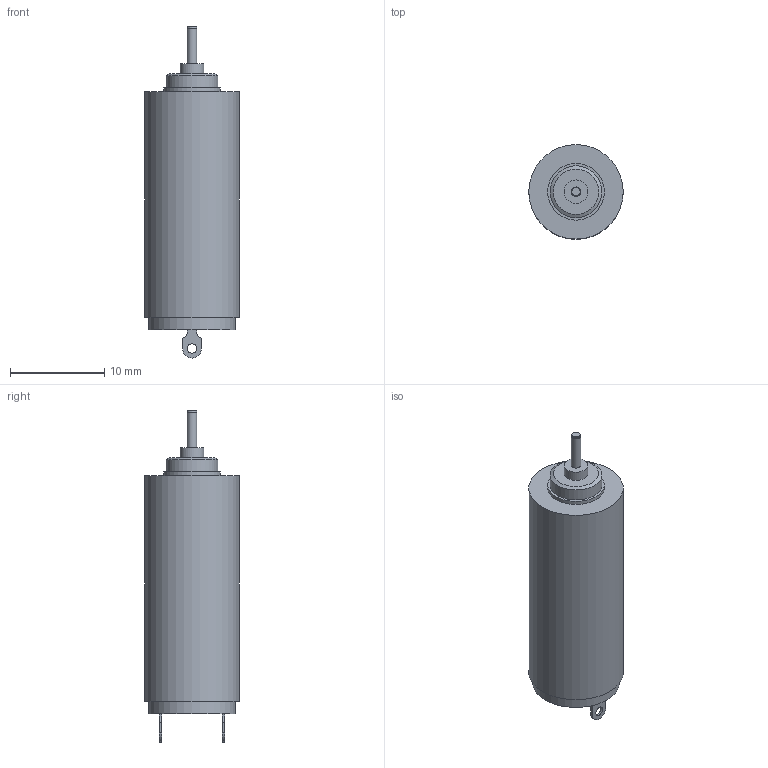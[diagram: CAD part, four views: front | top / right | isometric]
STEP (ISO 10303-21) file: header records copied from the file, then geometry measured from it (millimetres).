
FILE_DESCRIPTION(/* description */ (''),/* implementation_level */ '2;1');
FILE_NAME(/* name */ '1024K_SR.stp',/* time_stamp */ '2015-11-09T11:39:34+01:00',/* author */ (''),/* organization */ (''),/* preprocessor_version */ 'ST-DEVELOPER v15',/* originating_system */ 'SIEMENS PLM Software NX 8.5',/* authorisation */ '');
FILE_SCHEMA (('CONFIG_CONTROL_DESIGN'));
Bounding box: 10 x 10 x 35.15 mm (x, y, z)
Volume: 2020.1 mm3; surface area: 1018.8 mm2
Topology: 1 solids, 1 shells, 47 faces, 105 edges, 69 vertices
Faces by surface type: plane 25, cylinder 19, cone 2, bspline 1
Full cylindrical faces by diameter (mm): 1 x3, 1.2 x1, 2.5 x1, 5.5 x1, 6 x1, 9.2 x1, 10 x1
Entity records: 1371 total; most frequent: CRTPNT 237, DRCTN 228, ORNEDG 186, EDGCRV 93, A2PL3D 88, EDGLP 72, VRTPNT 69, LINE 52
